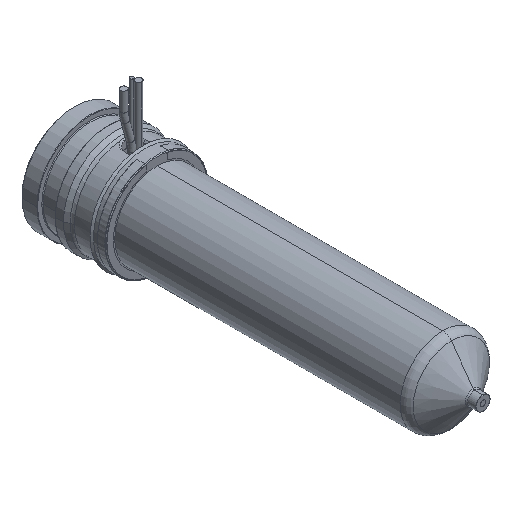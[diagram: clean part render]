
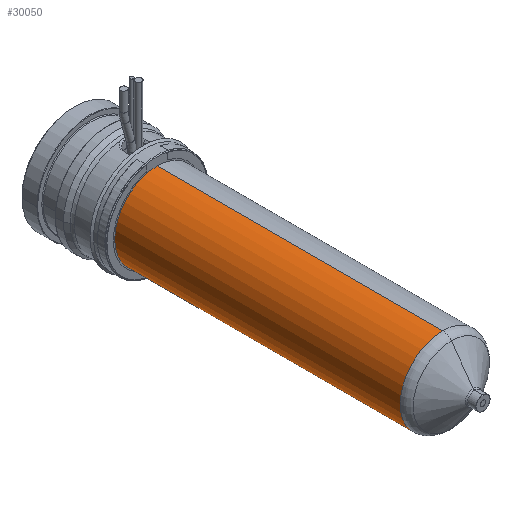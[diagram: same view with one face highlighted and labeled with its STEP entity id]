
A CAD part, isometric view. The second image highlights one B-rep face of the part: STEP entity #30050.
In plain terms, the highlighted cylindrical face has radius 12 mm (diameter 24 mm), a partial arc.
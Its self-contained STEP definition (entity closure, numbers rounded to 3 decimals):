
#29695=CARTESIAN_POINT('',(0.,-24.,0.));
#29696=DIRECTION('',(0.,1.,0.));
#29697=DIRECTION('',(0.,0.,-1.));
#29698=AXIS2_PLACEMENT_3D('',#29695,#29696,#29697);
#29703=DIRECTION('',(0.,1.,0.));
#29704=VECTOR('',#29703,80.671);
#29705=CARTESIAN_POINT('',(0.,-104.671,12.));
#29706=LINE('',#29705,#29704);
#29718=DIRECTION('',(0.,1.,0.));
#29719=VECTOR('',#29718,80.671);
#29720=CARTESIAN_POINT('',(0.,-104.671,-12.));
#29721=LINE('',#29720,#29719);
#29749=CARTESIAN_POINT('',(0.,-104.671,0.));
#29750=DIRECTION('',(0.,-1.,0.));
#29751=DIRECTION('',(0.,0.,1.));
#29752=AXIS2_PLACEMENT_3D('',#29749,#29750,#29751);
#29939=CARTESIAN_POINT('',(0.,-104.671,12.));
#29940=CARTESIAN_POINT('',(0.,-24.,12.));
#29941=VERTEX_POINT('',#29939);
#29942=VERTEX_POINT('',#29940);
#29947=CARTESIAN_POINT('',(0.,-104.671,-12.));
#29948=CARTESIAN_POINT('',(0.,-24.,-12.));
#29949=VERTEX_POINT('',#29947);
#29950=VERTEX_POINT('',#29948);
#30036=CARTESIAN_POINT('',(0.,-15.2,0.));
#30037=DIRECTION('',(0.,-1.,0.));
#30038=DIRECTION('',(0.,0.,1.));
#30039=AXIS2_PLACEMENT_3D('',#30036,#30037,#30038);
#30040=CYLINDRICAL_SURFACE('',#30039,12.);
#30042=ORIENTED_EDGE('',*,*,#30041,.F.);
#30044=ORIENTED_EDGE('',*,*,#30043,.T.);
#30046=ORIENTED_EDGE('',*,*,#30045,.T.);
#30047=ORIENTED_EDGE('',*,*,#30029,.T.);
#30048=EDGE_LOOP('',(#30042,#30044,#30046,#30047));
#30049=FACE_OUTER_BOUND('',#30048,.F.);
#30050=ADVANCED_FACE('',(#30049),#30040,.T.);
#29699=CIRCLE('',#29698,12.);
#29753=CIRCLE('',#29752,12.);
#30029=EDGE_CURVE('',#29950,#29942,#29699,.T.);
#30041=EDGE_CURVE('',#29941,#29942,#29706,.T.);
#30043=EDGE_CURVE('',#29941,#29949,#29753,.T.);
#30045=EDGE_CURVE('',#29949,#29950,#29721,.T.);
